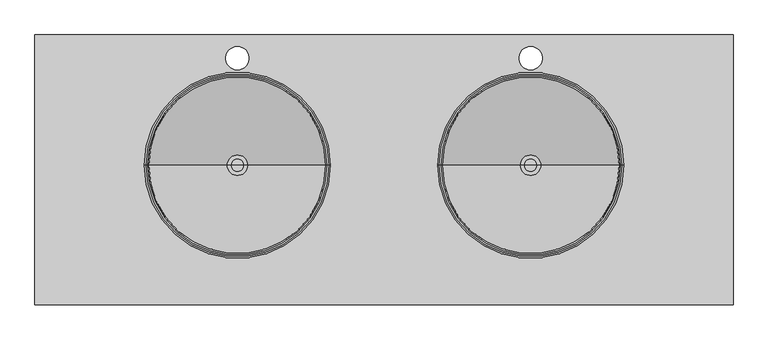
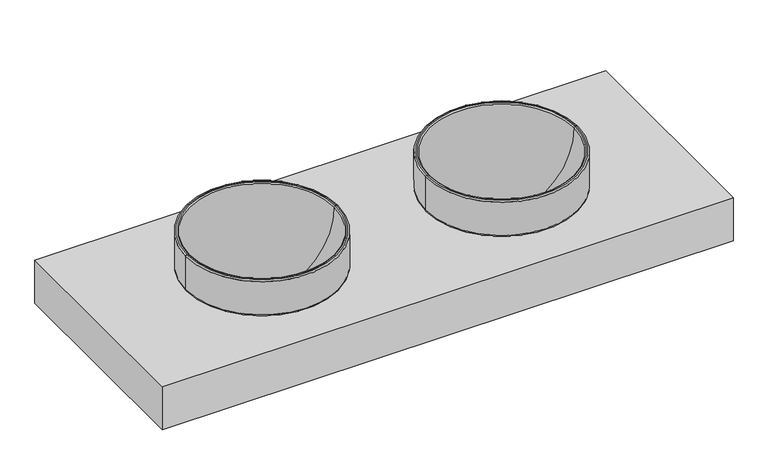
"""IFC4 building model written with IfcOpenShell, lengths in millimetres: flow terminal geometry, CUBIERTA BAÑO : CUBIERTA BAÑO 150CM."""

import ifcopenshell
import ifcopenshell.guid

model = None  # the IFC model being written
_history = None  # IfcOwnerHistory: only IFC2X3 demands one
_inside = {}  # id of a spatial element -> (the spatial element, [elements in it])
_under = {}  # id of a project, library or spatial element -> (it, [spatial elements below it])
_declared = {}  # id of a project -> (the project, [libraries it declares])
_typed = {}  # id of a type object -> (the type object, [elements of that type])
_made_of = {}  # id of a material, layer set ... -> (it, [elements and type objects made of it])


def new_model(schema):
    """Start an empty IFC model of exactly this schema.

    Asked for "IFC4X3", IfcOpenShell would pick the latest addendum, in which some entities
    have other attributes; the version numbers below select the first issue.
    IFC2X3 requires an IfcOwnerHistory on every rooted entity: one is made here for all.
    """
    global model, _history
    if schema == "IFC4X3":
        model = ifcopenshell.file(schema_version=(4, 3, 0, 0))
    else:
        model = ifcopenshell.file(schema=schema)
    _inside.clear()
    _under.clear()
    _declared.clear()
    _typed.clear()
    _made_of.clear()
    _history = None
    if model.schema == "IFC2X3":
        org = make("IfcOrganization", Name="unknown")
        user = make(
            "IfcPersonAndOrganization",
            ThePerson=make("IfcPerson", FamilyName="unknown"),
            TheOrganization=org,
        )
        app = make(
            "IfcApplication",
            ApplicationDeveloper=org,
            Version="unknown",
            ApplicationFullName="unknown",
            ApplicationIdentifier="unknown",
        )
        _history = make(
            "IfcOwnerHistory",
            OwningUser=user,
            OwningApplication=app,
            ChangeAction="ADDED",
            CreationDate=0,
        )
    return model


def make(cls, **values):
    """One entity of the class cls with the attributes given. An attribute that is None is left unset."""
    return model.create_entity(
        cls, **{name: value for name, value in values.items() if value is not None}
    )


def rooted(cls, **values):
    """An entity with a GlobalId (a new one), such as an element, a storey or a relation."""
    return make(cls, GlobalId=ifcopenshell.guid.new(), OwnerHistory=_history, **values)


def si_unit(unit_type, name, prefix=None):
    """IfcSIUnit, for example si_unit("LENGTHUNIT", "METRE", prefix="MILLI")."""
    return make("IfcSIUnit", UnitType=unit_type, Prefix=prefix, Name=name)


def assignment(units):
    """IfcUnitAssignment: the units of a project."""
    return None if units is None else make("IfcUnitAssignment", Units=units)


def point(xyz):
    """IfcCartesianPoint."""
    return None if xyz is None else make("IfcCartesianPoint", Coordinates=xyz)


def direction(xyz):
    """IfcDirection."""
    return None if xyz is None else make("IfcDirection", DirectionRatios=xyz)


def frame(location, z_axis=None, x_axis=None):
    """IfcAxis2Placement3D, a coordinate frame: its origin and axes. An axis left out is left unset."""
    return make(
        "IfcAxis2Placement3D",
        Location=point(location),
        Axis=direction(z_axis),
        RefDirection=direction(x_axis),
    )


def origin():
    """The frame at (0, 0, 0) with its axes left unset."""
    return frame((0.0, 0.0, 0.0))


def place(relative_to, where):
    """IfcLocalPlacement: puts the frame where relative to a parent placement (None: the world)."""
    return make(
        "IfcLocalPlacement", PlacementRelTo=relative_to, RelativePlacement=where
    )


def context(
    kind, dimensions, precision=None, world=None, true_north=None, identifier=None
):
    """IfcGeometricRepresentationContext, for example the 3D "Model" context."""
    return make(
        "IfcGeometricRepresentationContext",
        ContextIdentifier=identifier,
        ContextType=kind,
        CoordinateSpaceDimension=dimensions,
        Precision=precision,
        WorldCoordinateSystem=world,
        TrueNorth=true_north,
    )


def project(units=None, contexts=None):
    """IfcProject with its units and contexts."""
    return rooted(
        "IfcProject",
        Name="project",
        RepresentationContexts=contexts,
        UnitsInContext=assignment(units),
    )


def spatial(cls, under=None, at=None, **own):
    """A site, building, storey or space (cls), placed at a placement, below another one or the project."""
    s = rooted(cls, ObjectPlacement=at, **own)
    if under is not None:
        _under.setdefault(under.id(), (under, []))[1].append(s)
    return s


def polyline(points):
    """IfcPolyline through the points."""
    return make("IfcPolyline", Points=[point(p) for p in points])


def circle_curve(where, radius):
    """IfcCircle in the frame where."""
    return make("IfcCircle", Position=where, Radius=radius)


def ellipse_curve(where, semi_axis1, semi_axis2):
    """IfcEllipse in the frame where."""
    return make(
        "IfcEllipse", Position=where, SemiAxis1=semi_axis1, SemiAxis2=semi_axis2
    )


def trimmed(basis, trim1, trim2, sense, master):
    """IfcTrimmedCurve: the piece of a basis curve between two trims."""
    return make(
        "IfcTrimmedCurve",
        BasisCurve=basis,
        Trim1=trim1,
        Trim2=trim2,
        SenseAgreement=sense,
        MasterRepresentation=master,
    )


def shape(context_of_items, identifier, shape_type, items):
    """IfcShapeRepresentation: the items that make up one representation, for example the "Body"."""
    return make(
        "IfcShapeRepresentation",
        ContextOfItems=context_of_items,
        RepresentationIdentifier=identifier,
        RepresentationType=shape_type,
        Items=items,
    )


def source(mapping_origin, context_of_items, identifier, shape_type, items):
    """IfcRepresentationMap: a shape defined once, which mapped items show again and again."""
    return make(
        "IfcRepresentationMap",
        MappingOrigin=mapping_origin,
        MappedRepresentation=shape(context_of_items, identifier, shape_type, items),
    )


def transform(
    local_origin,
    x_axis=None,
    y_axis=None,
    z_axis=None,
    scale=None,
    scale2=None,
    scale3=None,
    uniform=True,
):
    """IfcCartesianTransformationOperator3D, or its non-uniform kind. x_axis, y_axis, z_axis: its Axis1, 2, 3."""
    if uniform:
        return make(
            "IfcCartesianTransformationOperator3D",
            Axis1=direction(x_axis),
            Axis2=direction(y_axis),
            LocalOrigin=point(local_origin),
            Scale=scale,
            Axis3=direction(z_axis),
        )
    return make(
        "IfcCartesianTransformationOperator3DnonUniform",
        Axis1=direction(x_axis),
        Axis2=direction(y_axis),
        LocalOrigin=point(local_origin),
        Scale=scale,
        Axis3=direction(z_axis),
        Scale2=scale2,
        Scale3=scale3,
    )


def mapped(mapping_source, mapping_target):
    """IfcMappedItem: shows the shape of a source again, moved by a transform."""
    return make(
        "IfcMappedItem", MappingSource=mapping_source, MappingTarget=mapping_target
    )


def made_of(thing, what):
    """Note that an element or type object is made of a material, layer set ...; save() writes the relation."""
    if what is not None:
        _made_of.setdefault(what.id(), (what, []))[1].append(thing)
    return thing


def element(
    cls,
    number,
    at=None,
    inside=None,
    cuts=None,
    type_object=None,
    material=None,
    context=None,
    identifier="Body",
    shape_type=None,
    held_by="IfcProductDefinitionShape",
    body=None,
    shapes=None,
    **own,
):
    """One element of the class cls, such as IfcWall. Its Tag is "e" and its number.

    at: its placement. inside: the storey or other place that contains it. cuts: it is an
    opening in that element (IfcRelVoidsElement). A single representation is given by context,
    identifier, shape_type and body (its items); several are given by shapes. held_by: the class
    of the entity that holds the representations. save() writes the other relations.
    """
    e = rooted(cls, Tag="e%d" % number, ObjectPlacement=at, **own)
    if body is not None:
        shapes = [shape(context, identifier, shape_type, body)]
    if shapes is not None:
        e.Representation = make(held_by, Representations=shapes)
    if inside is not None:
        _inside.setdefault(inside.id(), (inside, []))[1].append(e)
    if cuts is not None:
        rooted(
            "IfcRelVoidsElement", RelatingBuildingElement=cuts, RelatedOpeningElement=e
        )
    if type_object is not None:
        _typed.setdefault(type_object.id(), (type_object, []))[1].append(e)
    return made_of(e, material)


def aggregate(whole, parts):
    """IfcRelAggregates: a whole, such as a stair, and the parts it consists of."""
    return rooted("IfcRelAggregates", RelatingObject=whole, RelatedObjects=parts)


def save(model, path):
    """Write the relations noted so far, then the file.

    IfcRelAggregates (storeys below a building ...), IfcRelContainedInSpatialStructure (elements
    in a storey), IfcRelDefinesByType, IfcRelAssociatesMaterial and IfcRelDeclares: one each for
    every whole, place, type object, material and project.
    """
    for whole, parts in _under.values():
        aggregate(whole, parts)
    for where, things in _inside.values():
        rooted(
            "IfcRelContainedInSpatialStructure",
            RelatedElements=things,
            RelatingStructure=where,
        )
    for kind, things in _typed.values():
        rooted("IfcRelDefinesByType", RelatedObjects=things, RelatingType=kind)
    for what, things in _made_of.values():
        rooted("IfcRelAssociatesMaterial", RelatedObjects=things, RelatingMaterial=what)
    for by, libraries in _declared.values():
        rooted("IfcRelDeclares", RelatingContext=by, RelatedDefinitions=libraries)
    model.write(path)


def plane_surface(at):
    """IfcPlane: the flat surface through the origin of the frame at, square to its z axis."""
    return make("IfcPlane", Position=at)


def cylinder_surface(at, radius):
    """IfcCylindricalSurface: all points at the distance radius from the z axis of the frame at."""
    return make("IfcCylindricalSurface", Position=at, Radius=radius)


def revolved_surface(curve, axis_point, axis_direction):
    """IfcSurfaceOfRevolution: the curve turned about the line through axis_point along axis_direction."""
    return make(
        "IfcSurfaceOfRevolution",
        SweptCurve=make("IfcArbitraryOpenProfileDef", ProfileType="CURVE", Curve=curve),
        AxisPosition=make("IfcAxis1Placement", Location=point(axis_point), Axis=direction(axis_direction)),
    )


def advanced_brep(points, edges, surfaces, faces):
    """IfcAdvancedBrep: a solid bounded by faces that lie on surfaces and meet in shared edges.

    An edge is (start, end): straight between two places in points (the first is 0);
    or (start, end, curve); or (start, end, curve, False) where it runs against its curve.
    A face is (place in surfaces, loops), or (place, loops, False) where it looks against
    its surface's normal. A loop lists edges by number (the first is 1), with a minus sign
    where the edge is run from its end to its start. The first loop is the outer one.
    """
    corners = [point(p) for p in points]
    vertices = [make("IfcVertexPoint", VertexGeometry=c) for c in corners]
    made = []
    for start, end, *more in edges:
        made.append(
            make(
                "IfcEdgeCurve",
                EdgeStart=vertices[start],
                EdgeEnd=vertices[end],
                EdgeGeometry=more[0] if more else make("IfcPolyline", Points=[corners[start], corners[end]]),
                SameSense=more[1] if len(more) > 1 else True,
            )
        )
    hull = []
    for where, loops, *sense in faces:
        bounds = []
        for j, loop in enumerate(loops):
            ring = [make("IfcOrientedEdge", EdgeElement=made[abs(k) - 1], Orientation=k > 0) for k in loop]
            bounds.append(
                make(
                    "IfcFaceOuterBound" if j == 0 else "IfcFaceBound",
                    Bound=make("IfcEdgeLoop", EdgeList=ring),
                    Orientation=True,
                )
            )
        hull.append(make("IfcAdvancedFace", Bounds=bounds, FaceSurface=surfaces[where], SameSense=sense[0] if sense else True))
    return make("IfcAdvancedBrep", Outer=make("IfcClosedShell", CfsFaces=hull))


def flow_terminal_b09b52e7(model_context):
    return source(origin(), model_context, "Body", "AdvancedBrep", [
        advanced_brep(
        [(559.7003264, -280.0, 755.0254698), (159.7003264, -280.0, 755.0254698), (164.7257963, -280.0, 750.0), (554.6748566, -280.0, 750.0), (559.7003264, -280.0, 847.1369003), (159.7003264, -280.0, 847.1369003), (556.5666099, -280.0, 850.2706168), (162.834043, -280.0, 850.2706168), (552.8264261, -280.0, 850.2706168), (166.5742268, -280.0, 850.2706168), (549.9406449, -280.0, 847.3848356), (169.460008, -280.0, 847.3848356), (376.6370457, -280.0, 659.6971154), (342.7636072, -280.0, 659.6971154), (376.6370457, -280.0, 649.6794237), (342.7636072, -280.0, 649.6794237), (549.6748566, -280.0, 781.4886928), (169.7257963, -280.0, 781.4886928), (549.6748566, -280.0, 750.0), (169.7257963, -280.0, 750.0)],
        [
            (0, 1, circle_curve(frame((359.7003264, -280.0, 755.0254698), z_axis=(0.0, 0.0, -1.0), x_axis=(-1.0, 0.0, 0.0)), 200.0)),
            (1, 2, circle_curve(frame((164.7257963, -280.0, 755.0254698), z_axis=(0.0, -1.0, 0.0), x_axis=(-1.0, 0.0, 0.0)), 5.0254698)),
            (2, 3, circle_curve(frame((359.7003264, -280.0, 750.0), z_axis=(0.0, 0.0, 1.0), x_axis=(-1.0, 0.0, 0.0)), 194.9745302)),
            (3, 0, circle_curve(frame((554.6748566, -280.0, 755.0254698), z_axis=(0.0, -1.0, 0.0), x_axis=(1.0, 0.0, 0.0)), 5.0254698)),
            (1, 0, circle_curve(frame((359.7003264, -280.0, 755.0254698), z_axis=(0.0, 0.0, -1.0), x_axis=(-1.0, 0.0, 0.0)), 200.0)),
            (3, 2, circle_curve(frame((359.7003264, -280.0, 750.0), z_axis=(0.0, 0.0, 1.0), x_axis=(-1.0, 0.0, 0.0)), 194.9745302)),
            (4, 5, circle_curve(frame((359.7003264, -280.0, 847.1369003), z_axis=(0.0, 0.0, -1.0), x_axis=(-1.0, 0.0, 0.0)), 200.0)),
            (5, 1),
            (0, 4),
            (5, 4, circle_curve(frame((359.7003264, -280.0, 847.1369003), z_axis=(0.0, 0.0, -1.0), x_axis=(-1.0, 0.0, 0.0)), 200.0)),
            (6, 7, circle_curve(frame((359.7003264, -280.0, 850.2706168), z_axis=(0.0, 0.0, -1.0), x_axis=(-1.0, 0.0, 0.0)), 196.8662835)),
            (7, 5, circle_curve(frame((162.834043, -280.0, 847.1369003), z_axis=(0.0, -1.0, 0.0), x_axis=(-1.0, 0.0, 0.0)), 3.1337165)),
            (4, 6, circle_curve(frame((556.5666099, -280.0, 847.1369003), z_axis=(0.0, -1.0, 0.0), x_axis=(1.0, 0.0, 0.0)), 3.1337165)),
            (7, 6, circle_curve(frame((359.7003264, -280.0, 850.2706168), z_axis=(0.0, 0.0, -1.0), x_axis=(-1.0, 0.0, 0.0)), 196.8662835)),
            (8, 9, circle_curve(frame((359.7003264, -280.0, 850.2706168), z_axis=(0.0, 0.0, -1.0), x_axis=(-1.0, 0.0, 0.0)), 193.1260997)),
            (9, 7),
            (6, 8),
            (9, 8, circle_curve(frame((359.7003264, -280.0, 850.2706168), z_axis=(0.0, 0.0, -1.0), x_axis=(-1.0, 0.0, 0.0)), 193.1260997)),
            (10, 11, circle_curve(frame((359.7003264, -280.0, 847.3848356), z_axis=(0.0, 0.0, -1.0), x_axis=(-1.0, 0.0, 0.0)), 190.2403184)),
            (11, 9, circle_curve(frame((166.5742268, -280.0, 847.3848356), z_axis=(0.0, -1.0, 0.0), x_axis=(-1.0, 0.0, 0.0)), 2.8857812)),
            (8, 10, circle_curve(frame((552.8264261, -280.0, 847.3848356), z_axis=(0.0, -1.0, 0.0), x_axis=(1.0, 0.0, 0.0)), 2.8857812)),
            (11, 10, circle_curve(frame((359.7003264, -280.0, 847.3848356), z_axis=(0.0, 0.0, -1.0), x_axis=(-1.0, 0.0, 0.0)), 190.2403184)),
            (12, 13, circle_curve(frame((359.7003264, -280.0, 659.6971154), z_axis=(0.0, 0.0, -1.0), x_axis=(-1.0, 0.0, 0.0)), 16.9367193)),
            (13, 11, circle_curve(frame((354.0281906, -280.0, 843.9531856), z_axis=(0.0, 1.0, 0.0), x_axis=(-1.0, 0.0, 0.0)), 184.6000819)),
            (10, 12, circle_curve(frame((365.3724623, -280.0, 843.9531856), z_axis=(0.0, 1.0, 0.0), x_axis=(1.0, 0.0, 0.0)), 184.6000819)),
            (13, 12, circle_curve(frame((359.7003264, -280.0, 659.6971154), z_axis=(0.0, 0.0, -1.0), x_axis=(-1.0, 0.0, 0.0)), 16.9367193)),
            (14, 15, circle_curve(frame((359.7003264, -280.0, 649.6794237), z_axis=(0.0, 0.0, -1.0), x_axis=(-1.0, 0.0, 0.0)), 16.9367193)),
            (15, 13),
            (12, 14),
            (15, 14, circle_curve(frame((359.7003264, -280.0, 649.6794237), z_axis=(0.0, 0.0, -1.0), x_axis=(-1.0, 0.0, 0.0)), 16.9367193)),
            (16, 17, circle_curve(frame((359.7003264, -280.0, 781.4886928), z_axis=(0.0, 0.0, -1.0), x_axis=(-1.0, 0.0, 0.0)), 189.9745302)),
            (17, 15, circle_curve(frame((354.0281906, -280.0, 843.9531856), z_axis=(0.0, -1.0, 0.0), x_axis=(-1.0, 0.0, 0.0)), 194.6000653)),
            (14, 16, circle_curve(frame((365.3724623, -280.0, 843.9531856), z_axis=(0.0, -1.0, 0.0), x_axis=(1.0, 0.0, 0.0)), 194.6000653)),
            (17, 16, circle_curve(frame((359.7003264, -280.0, 781.4886928), z_axis=(0.0, 0.0, -1.0), x_axis=(-1.0, 0.0, 0.0)), 189.9745302)),
            (18, 19, circle_curve(frame((359.7003264, -280.0, 750.0), z_axis=(0.0, 0.0, -1.0), x_axis=(-1.0, 0.0, 0.0)), 189.9745302)),
            (19, 17),
            (16, 18),
            (19, 18, circle_curve(frame((359.7003264, -280.0, 750.0), z_axis=(0.0, 0.0, -1.0), x_axis=(-1.0, 0.0, 0.0)), 189.9745302)),
            (2, 19),
            (18, 3),
        ],
        [
            revolved_surface(trimmed(ellipse_curve(frame((164.7257963, -280.0, 755.0254698), z_axis=(0.0, 1.0, 0.0), x_axis=(-1.0, 0.0, 0.0)), 5.0254698, 5.0254698), [point((164.7257963, -280.0, 750.0))], [point((159.7003264, -280.0, 755.0254698))], True, "CARTESIAN"), (359.7003264, -280.0, 700.0), (0.0, 0.0, 1.0)),
            cylinder_surface(frame((359.7003264, -280.0, 700.0), z_axis=(0.0, 0.0, 1.0), x_axis=(-1.0, 0.0, 0.0)), 200.0),
            revolved_surface(trimmed(ellipse_curve(frame((162.834043, -280.0, 847.1369003), z_axis=(0.0, 1.0, 0.0), x_axis=(-1.0, 0.0, 0.0)), 3.1337165, 3.1337165), [point((159.7003264, -280.0, 847.1369003))], [point((162.834043, -280.0, 850.2706168))], True, "CARTESIAN"), (359.7003264, -280.0, 700.0), (0.0, 0.0, 1.0)),
            plane_surface(frame((359.7003264, -280.0, 850.2706168), z_axis=(0.0, 0.0, 1.0), x_axis=(-1.0, 0.0, 0.0))),
            revolved_surface(trimmed(ellipse_curve(frame((166.5742268, -280.0, 847.3848356), z_axis=(0.0, 1.0, 0.0), x_axis=(-1.0, 0.0, 0.0)), 2.8857812, 2.8857812), [point((166.5742268, -280.0, 850.2706168))], [point((169.460008, -280.0, 847.3848356))], True, "CARTESIAN"), (359.7003264, -280.0, 700.0), (0.0, 0.0, 1.0)),
            revolved_surface(trimmed(ellipse_curve(frame((354.0281906, -280.0, 843.9531856), z_axis=(0.0, -1.0, 0.0), x_axis=(-1.0, 0.0, 0.0)), 184.6000819, 184.6000819), [point((169.460008, -280.0, 847.3848356))], [point((342.7636072, -280.0, 659.6971154))], True, "CARTESIAN"), (359.7003264, -280.0, 700.0), (0.0, 0.0, 1.0)),
            revolved_surface(polyline([(342.7636071, -280.0, 659.6971154), (342.7636071, -280.0, 649.6794237)]), (359.7003264, -280.0, 700.0), (0.0, 0.0, 1.0)),
            revolved_surface(trimmed(ellipse_curve(frame((354.0281906, -280.0, 843.9531856), z_axis=(0.0, 1.0, 0.0), x_axis=(-1.0, 0.0, 0.0)), 194.6000653, 194.6000653), [point((342.7636072, -280.0, 649.6794237))], [point((169.7257963, -280.0, 781.4886928))], True, "CARTESIAN"), (359.7003264, -280.0, 700.0), (0.0, 0.0, 1.0)),
            revolved_surface(polyline([(169.7257962, -280.0, 781.4886928), (169.7257962, -280.0, 750.0)]), (359.7003264, -280.0, 700.0), (0.0, 0.0, 1.0)),
            plane_surface(frame((359.7003264, -280.0, 750.0), z_axis=(0.0, 0.0, -1.0), x_axis=(-1.0, 0.0, 0.0))),
        ],
        [
            (0, [[1, 2, 3, 4]]),
            (0, [[5, -4, 6, -2]]),
            (1, [[7, 8, -1, 9]]),
            (1, [[10, -9, -5, -8]]),
            (2, [[11, 12, -7, 13]]),
            (2, [[14, -13, -10, -12]]),
            (3, [[15, 16, -11, 17]]),
            (3, [[18, -17, -14, -16]]),
            (4, [[19, 20, -15, 21]]),
            (4, [[22, -21, -18, -20]]),
            (5, [[23, 24, -19, 25]]),
            (5, [[26, -25, -22, -24]]),
            (6, [[27, 28, -23, 29]]),
            (6, [[30, -29, -26, -28]]),
            (7, [[31, 32, -27, 33]]),
            (7, [[34, -33, -30, -32]]),
            (8, [[35, 36, -31, 37]]),
            (8, [[38, -37, -34, -36]]),
            (9, [[-3, 39, -35, 40]]),
            (9, [[-6, -40, -38, -39]]),
        ],
    ),
        advanced_brep(
        [(373.4382327, -280.0, 661.875), (345.9624201, -280.0, 661.875), (337.7003264, -280.0, 661.875), (381.7003264, -280.0, 661.875), (373.4382327, -280.0, 643.7247134), (345.9624201, -280.0, 643.7247134), (359.7003264, -280.0, 643.7247134), (376.7003264, -280.0, 640.0), (342.7003264, -280.0, 640.0), (359.7003264, -280.0, 640.0), (376.7003264, -280.0, 660.339751), (342.7003264, -280.0, 660.339751), (381.7003264, -280.0, 660.339751), (337.7003264, -280.0, 660.339751)],
        [
            (0, 1, circle_curve(frame((359.7003264, -280.0, 661.875), z_axis=(0.0, 0.0, -1.0), x_axis=(-1.0, 0.0, 0.0)), 13.7379063)),
            (1, 2),
            (2, 3, circle_curve(frame((359.7003264, -280.0, 661.875), z_axis=(0.0, 0.0, 1.0), x_axis=(-1.0, 0.0, 0.0)), 22.0)),
            (3, 0),
            (1, 0, circle_curve(frame((359.7003264, -280.0, 661.875), z_axis=(0.0, 0.0, -1.0), x_axis=(-1.0, 0.0, 0.0)), 13.7379063)),
            (3, 2, circle_curve(frame((359.7003264, -280.0, 661.875), z_axis=(0.0, 0.0, 1.0), x_axis=(-1.0, 0.0, 0.0)), 22.0)),
            (4, 5, circle_curve(frame((359.7003264, -280.0, 643.7247134), z_axis=(0.0, 0.0, -1.0), x_axis=(-1.0, 0.0, 0.0)), 13.7379063)),
            (5, 1),
            (0, 4),
            (5, 4, circle_curve(frame((359.7003264, -280.0, 643.7247134), z_axis=(0.0, 0.0, -1.0), x_axis=(-1.0, 0.0, 0.0)), 13.7379063)),
            (6, 5),
            (4, 6),
            (7, 8, circle_curve(frame((359.7003264, -280.0, 640.0), z_axis=(0.0, 0.0, -1.0), x_axis=(-1.0, 0.0, 0.0)), 17.0)),
            (8, 9),
            (9, 7),
            (8, 7, circle_curve(frame((359.7003264, -280.0, 640.0), z_axis=(0.0, 0.0, -1.0), x_axis=(-1.0, 0.0, 0.0)), 17.0)),
            (10, 11, circle_curve(frame((359.7003264, -280.0, 660.339751), z_axis=(0.0, 0.0, -1.0), x_axis=(-1.0, 0.0, 0.0)), 17.0)),
            (11, 8),
            (7, 10),
            (11, 10, circle_curve(frame((359.7003264, -280.0, 660.339751), z_axis=(0.0, 0.0, -1.0), x_axis=(-1.0, 0.0, 0.0)), 17.0)),
            (12, 13, circle_curve(frame((359.7003264, -280.0, 660.339751), z_axis=(0.0, 0.0, -1.0), x_axis=(-1.0, 0.0, 0.0)), 22.0)),
            (13, 11),
            (10, 12),
            (13, 12, circle_curve(frame((359.7003264, -280.0, 660.339751), z_axis=(0.0, 0.0, -1.0), x_axis=(-1.0, 0.0, 0.0)), 22.0)),
            (2, 13),
            (12, 3),
        ],
        [
            plane_surface(frame((359.7003264, -280.0, 661.875), z_axis=(0.0, 0.0, 1.0), x_axis=(-1.0, 0.0, 0.0))),
            revolved_surface(polyline([(345.9624201, -280.0, 661.875), (345.9624201, -280.0, 643.7247134)]), (359.7003264, -280.0, 639.8833255), (0.0, 0.0, 1.0)),
            plane_surface(frame((359.7003264, -280.0, 643.7247134), z_axis=(0.0, 0.0, 1.0), x_axis=(-1.0, 0.0, 0.0))),
            plane_surface(frame((359.7003264, -280.0, 640.0), z_axis=(0.0, 0.0, -1.0), x_axis=(-1.0, 0.0, 0.0))),
            cylinder_surface(frame((359.7003264, -280.0, 639.8833255), z_axis=(0.0, 0.0, 1.0), x_axis=(-1.0, 0.0, 0.0)), 17.0),
            plane_surface(frame((359.7003264, -280.0, 660.339751), z_axis=(0.0, 0.0, -1.0), x_axis=(-1.0, 0.0, 0.0))),
            cylinder_surface(frame((359.7003264, -280.0, 639.8833255), z_axis=(0.0, 0.0, 1.0), x_axis=(-1.0, 0.0, 0.0)), 22.0),
        ],
        [
            (0, [[1, 2, 3, 4]]),
            (0, [[5, -4, 6, -2]]),
            (1, [[7, 8, -1, 9]]),
            (1, [[10, -9, -5, -8]]),
            (2, [[11, -7, 12]]),
            (2, [[-12, -10, -11]]),
            (3, [[13, 14, 15]]),
            (3, [[16, -15, -14]]),
            (4, [[17, 18, -13, 19]]),
            (4, [[20, -19, -16, -18]]),
            (5, [[21, 22, -17, 23]]),
            (5, [[24, -23, -20, -22]]),
            (6, [[-3, 25, -21, 26]]),
            (6, [[-6, -26, -24, -25]]),
        ],
    ),
        advanced_brep(
        [(-70.2996736, -280.0, 755.0254698), (-470.2996736, -280.0, 755.0254698), (-465.2742037, -280.0, 750.0), (-75.3251434, -280.0, 750.0), (-70.2996736, -280.0, 847.1369003), (-470.2996736, -280.0, 847.1369003), (-73.4333901, -280.0, 850.2706168), (-467.165957, -280.0, 850.2706168), (-77.1735739, -280.0, 850.2706168), (-463.4257732, -280.0, 850.2706168), (-80.0593551, -280.0, 847.3848356), (-460.539992, -280.0, 847.3848356), (-253.3629543, -280.0, 659.6971154), (-287.2363928, -280.0, 659.6971154), (-253.3629543, -280.0, 649.6794237), (-287.2363928, -280.0, 649.6794237), (-80.3251434, -280.0, 781.4886928), (-460.2742037, -280.0, 781.4886928), (-80.3251434, -280.0, 750.0), (-460.2742037, -280.0, 750.0)],
        [
            (0, 1, circle_curve(frame((-270.2996736, -280.0, 755.0254698), z_axis=(0.0, 0.0, -1.0), x_axis=(-1.0, 0.0, 0.0)), 200.0)),
            (1, 2, circle_curve(frame((-465.2742037, -280.0, 755.0254698), z_axis=(0.0, -1.0, 0.0), x_axis=(-1.0, 0.0, 0.0)), 5.0254698)),
            (2, 3, circle_curve(frame((-270.2996736, -280.0, 750.0), z_axis=(0.0, 0.0, 1.0), x_axis=(-1.0, 0.0, 0.0)), 194.9745302)),
            (3, 0, circle_curve(frame((-75.3251434, -280.0, 755.0254698), z_axis=(0.0, -1.0, 0.0), x_axis=(1.0, 0.0, 0.0)), 5.0254698)),
            (1, 0, circle_curve(frame((-270.2996736, -280.0, 755.0254698), z_axis=(0.0, 0.0, -1.0), x_axis=(-1.0, 0.0, 0.0)), 200.0)),
            (3, 2, circle_curve(frame((-270.2996736, -280.0, 750.0), z_axis=(0.0, 0.0, 1.0), x_axis=(-1.0, 0.0, 0.0)), 194.9745302)),
            (4, 5, circle_curve(frame((-270.2996736, -280.0, 847.1369003), z_axis=(0.0, 0.0, -1.0), x_axis=(-1.0, 0.0, 0.0)), 200.0)),
            (5, 1),
            (0, 4),
            (5, 4, circle_curve(frame((-270.2996736, -280.0, 847.1369003), z_axis=(0.0, 0.0, -1.0), x_axis=(-1.0, 0.0, 0.0)), 200.0)),
            (6, 7, circle_curve(frame((-270.2996736, -280.0, 850.2706168), z_axis=(0.0, 0.0, -1.0), x_axis=(-1.0, 0.0, 0.0)), 196.8662835)),
            (7, 5, circle_curve(frame((-467.165957, -280.0, 847.1369003), z_axis=(0.0, -1.0, 0.0), x_axis=(-1.0, 0.0, 0.0)), 3.1337165)),
            (4, 6, circle_curve(frame((-73.4333901, -280.0, 847.1369003), z_axis=(0.0, -1.0, 0.0), x_axis=(1.0, 0.0, 0.0)), 3.1337165)),
            (7, 6, circle_curve(frame((-270.2996736, -280.0, 850.2706168), z_axis=(0.0, 0.0, -1.0), x_axis=(-1.0, 0.0, 0.0)), 196.8662835)),
            (8, 9, circle_curve(frame((-270.2996736, -280.0, 850.2706168), z_axis=(0.0, 0.0, -1.0), x_axis=(-1.0, 0.0, 0.0)), 193.1260997)),
            (9, 7),
            (6, 8),
            (9, 8, circle_curve(frame((-270.2996736, -280.0, 850.2706168), z_axis=(0.0, 0.0, -1.0), x_axis=(-1.0, 0.0, 0.0)), 193.1260997)),
            (10, 11, circle_curve(frame((-270.2996736, -280.0, 847.3848356), z_axis=(0.0, 0.0, -1.0), x_axis=(-1.0, 0.0, 0.0)), 190.2403184)),
            (11, 9, circle_curve(frame((-463.4257732, -280.0, 847.3848356), z_axis=(0.0, -1.0, 0.0), x_axis=(-1.0, 0.0, 0.0)), 2.8857812)),
            (8, 10, circle_curve(frame((-77.1735739, -280.0, 847.3848356), z_axis=(0.0, -1.0, 0.0), x_axis=(1.0, 0.0, 0.0)), 2.8857812)),
            (11, 10, circle_curve(frame((-270.2996736, -280.0, 847.3848356), z_axis=(0.0, 0.0, -1.0), x_axis=(-1.0, 0.0, 0.0)), 190.2403184)),
            (12, 13, circle_curve(frame((-270.2996736, -280.0, 659.6971154), z_axis=(0.0, 0.0, -1.0), x_axis=(-1.0, 0.0, 0.0)), 16.9367193)),
            (13, 11, circle_curve(frame((-275.9718094, -280.0, 843.9531856), z_axis=(0.0, 1.0, 0.0), x_axis=(-1.0, 0.0, 0.0)), 184.6000819)),
            (10, 12, circle_curve(frame((-264.6275377, -280.0, 843.9531856), z_axis=(0.0, 1.0, 0.0), x_axis=(1.0, 0.0, 0.0)), 184.6000819)),
            (13, 12, circle_curve(frame((-270.2996736, -280.0, 659.6971154), z_axis=(0.0, 0.0, -1.0), x_axis=(-1.0, 0.0, 0.0)), 16.9367193)),
            (14, 15, circle_curve(frame((-270.2996736, -280.0, 649.6794237), z_axis=(0.0, 0.0, -1.0), x_axis=(-1.0, 0.0, 0.0)), 16.9367193)),
            (15, 13),
            (12, 14),
            (15, 14, circle_curve(frame((-270.2996736, -280.0, 649.6794237), z_axis=(0.0, 0.0, -1.0), x_axis=(-1.0, 0.0, 0.0)), 16.9367193)),
            (16, 17, circle_curve(frame((-270.2996736, -280.0, 781.4886928), z_axis=(0.0, 0.0, -1.0), x_axis=(-1.0, 0.0, 0.0)), 189.9745302)),
            (17, 15, circle_curve(frame((-275.9718094, -280.0, 843.9531856), z_axis=(0.0, -1.0, 0.0), x_axis=(-1.0, 0.0, 0.0)), 194.6000653)),
            (14, 16, circle_curve(frame((-264.6275377, -280.0, 843.9531856), z_axis=(0.0, -1.0, 0.0), x_axis=(1.0, 0.0, 0.0)), 194.6000653)),
            (17, 16, circle_curve(frame((-270.2996736, -280.0, 781.4886928), z_axis=(0.0, 0.0, -1.0), x_axis=(-1.0, 0.0, 0.0)), 189.9745302)),
            (18, 19, circle_curve(frame((-270.2996736, -280.0, 750.0), z_axis=(0.0, 0.0, -1.0), x_axis=(-1.0, 0.0, 0.0)), 189.9745302)),
            (19, 17),
            (16, 18),
            (19, 18, circle_curve(frame((-270.2996736, -280.0, 750.0), z_axis=(0.0, 0.0, -1.0), x_axis=(-1.0, 0.0, 0.0)), 189.9745302)),
            (2, 19),
            (18, 3),
        ],
        [
            revolved_surface(trimmed(ellipse_curve(frame((-465.2742037, -280.0, 755.0254698), z_axis=(0.0, 1.0, 0.0), x_axis=(-1.0, 0.0, 0.0)), 5.0254698, 5.0254698), [point((-465.2742037, -280.0, 750.0))], [point((-470.2996736, -280.0, 755.0254698))], True, "CARTESIAN"), (-270.2996736, -280.0, 700.0), (0.0, 0.0, 1.0)),
            cylinder_surface(frame((-270.2996736, -280.0, 700.0), z_axis=(0.0, 0.0, 1.0), x_axis=(-1.0, 0.0, 0.0)), 200.0),
            revolved_surface(trimmed(ellipse_curve(frame((-467.165957, -280.0, 847.1369003), z_axis=(0.0, 1.0, 0.0), x_axis=(-1.0, 0.0, 0.0)), 3.1337165, 3.1337165), [point((-470.2996736, -280.0, 847.1369003))], [point((-467.165957, -280.0, 850.2706168))], True, "CARTESIAN"), (-270.2996736, -280.0, 700.0), (0.0, 0.0, 1.0)),
            plane_surface(frame((-270.2996736, -280.0, 850.2706168), z_axis=(0.0, 0.0, 1.0), x_axis=(-1.0, 0.0, 0.0))),
            revolved_surface(trimmed(ellipse_curve(frame((-463.4257732, -280.0, 847.3848356), z_axis=(0.0, 1.0, 0.0), x_axis=(-1.0, 0.0, 0.0)), 2.8857812, 2.8857812), [point((-463.4257732, -280.0, 850.2706168))], [point((-460.539992, -280.0, 847.3848356))], True, "CARTESIAN"), (-270.2996736, -280.0, 700.0), (0.0, 0.0, 1.0)),
            revolved_surface(trimmed(ellipse_curve(frame((-275.9718094, -280.0, 843.9531856), z_axis=(0.0, -1.0, 0.0), x_axis=(-1.0, 0.0, 0.0)), 184.6000819, 184.6000819), [point((-460.539992, -280.0, 847.3848356))], [point((-287.2363928, -280.0, 659.6971154))], True, "CARTESIAN"), (-270.2996736, -280.0, 700.0), (0.0, 0.0, 1.0)),
            revolved_surface(polyline([(-287.2363929, -280.0, 659.6971154), (-287.2363929, -280.0, 649.6794237)]), (-270.2996736, -280.0, 700.0), (0.0, 0.0, 1.0)),
            revolved_surface(trimmed(ellipse_curve(frame((-275.9718094, -280.0, 843.9531856), z_axis=(0.0, 1.0, 0.0), x_axis=(-1.0, 0.0, 0.0)), 194.6000653, 194.6000653), [point((-287.2363928, -280.0, 649.6794237))], [point((-460.2742037, -280.0, 781.4886928))], True, "CARTESIAN"), (-270.2996736, -280.0, 700.0), (0.0, 0.0, 1.0)),
            revolved_surface(polyline([(-460.2742038, -280.0, 781.4886928), (-460.2742038, -280.0, 750.0)]), (-270.2996736, -280.0, 700.0), (0.0, 0.0, 1.0)),
            plane_surface(frame((-270.2996736, -280.0, 750.0), z_axis=(0.0, 0.0, -1.0), x_axis=(-1.0, 0.0, 0.0))),
        ],
        [
            (0, [[1, 2, 3, 4]]),
            (0, [[5, -4, 6, -2]]),
            (1, [[7, 8, -1, 9]]),
            (1, [[10, -9, -5, -8]]),
            (2, [[11, 12, -7, 13]]),
            (2, [[14, -13, -10, -12]]),
            (3, [[15, 16, -11, 17]]),
            (3, [[18, -17, -14, -16]]),
            (4, [[19, 20, -15, 21]]),
            (4, [[22, -21, -18, -20]]),
            (5, [[23, 24, -19, 25]]),
            (5, [[26, -25, -22, -24]]),
            (6, [[27, 28, -23, 29]]),
            (6, [[30, -29, -26, -28]]),
            (7, [[31, 32, -27, 33]]),
            (7, [[34, -33, -30, -32]]),
            (8, [[35, 36, -31, 37]]),
            (8, [[38, -37, -34, -36]]),
            (9, [[-3, 39, -35, 40]]),
            (9, [[-6, -40, -38, -39]]),
        ],
    ),
        advanced_brep(
        [(-256.5617673, -280.0, 661.875), (-284.0375799, -280.0, 661.875), (-292.2996736, -280.0, 661.875), (-248.2996736, -280.0, 661.875), (-256.5617673, -280.0, 643.7247134), (-284.0375799, -280.0, 643.7247134), (-270.2996736, -280.0, 643.7247134), (-253.2996736, -280.0, 640.0), (-287.2996736, -280.0, 640.0), (-270.2996736, -280.0, 640.0), (-253.2996736, -280.0, 660.339751), (-287.2996736, -280.0, 660.339751), (-248.2996736, -280.0, 660.339751), (-292.2996736, -280.0, 660.339751)],
        [
            (0, 1, circle_curve(frame((-270.2996736, -280.0, 661.875), z_axis=(0.0, 0.0, -1.0), x_axis=(-1.0, 0.0, 0.0)), 13.7379063)),
            (1, 2),
            (2, 3, circle_curve(frame((-270.2996736, -280.0, 661.875), z_axis=(0.0, 0.0, 1.0), x_axis=(-1.0, 0.0, 0.0)), 22.0)),
            (3, 0),
            (1, 0, circle_curve(frame((-270.2996736, -280.0, 661.875), z_axis=(0.0, 0.0, -1.0), x_axis=(-1.0, 0.0, 0.0)), 13.7379063)),
            (3, 2, circle_curve(frame((-270.2996736, -280.0, 661.875), z_axis=(0.0, 0.0, 1.0), x_axis=(-1.0, 0.0, 0.0)), 22.0)),
            (4, 5, circle_curve(frame((-270.2996736, -280.0, 643.7247134), z_axis=(0.0, 0.0, -1.0), x_axis=(-1.0, 0.0, 0.0)), 13.7379063)),
            (5, 1),
            (0, 4),
            (5, 4, circle_curve(frame((-270.2996736, -280.0, 643.7247134), z_axis=(0.0, 0.0, -1.0), x_axis=(-1.0, 0.0, 0.0)), 13.7379063)),
            (6, 5),
            (4, 6),
            (7, 8, circle_curve(frame((-270.2996736, -280.0, 640.0), z_axis=(0.0, 0.0, -1.0), x_axis=(-1.0, 0.0, 0.0)), 17.0)),
            (8, 9),
            (9, 7),
            (8, 7, circle_curve(frame((-270.2996736, -280.0, 640.0), z_axis=(0.0, 0.0, -1.0), x_axis=(-1.0, 0.0, 0.0)), 17.0)),
            (10, 11, circle_curve(frame((-270.2996736, -280.0, 660.339751), z_axis=(0.0, 0.0, -1.0), x_axis=(-1.0, 0.0, 0.0)), 17.0)),
            (11, 8),
            (7, 10),
            (11, 10, circle_curve(frame((-270.2996736, -280.0, 660.339751), z_axis=(0.0, 0.0, -1.0), x_axis=(-1.0, 0.0, 0.0)), 17.0)),
            (12, 13, circle_curve(frame((-270.2996736, -280.0, 660.339751), z_axis=(0.0, 0.0, -1.0), x_axis=(-1.0, 0.0, 0.0)), 22.0)),
            (13, 11),
            (10, 12),
            (13, 12, circle_curve(frame((-270.2996736, -280.0, 660.339751), z_axis=(0.0, 0.0, -1.0), x_axis=(-1.0, 0.0, 0.0)), 22.0)),
            (2, 13),
            (12, 3),
        ],
        [
            plane_surface(frame((-270.2996736, -280.0, 661.875), z_axis=(0.0, 0.0, 1.0), x_axis=(-1.0, 0.0, 0.0))),
            revolved_surface(polyline([(-284.0375799, -280.0, 661.875), (-284.0375799, -280.0, 643.7247134)]), (-270.2996736, -280.0, 639.8833255), (0.0, 0.0, 1.0)),
            plane_surface(frame((-270.2996736, -280.0, 643.7247134), z_axis=(0.0, 0.0, 1.0), x_axis=(-1.0, 0.0, 0.0))),
            plane_surface(frame((-270.2996736, -280.0, 640.0), z_axis=(0.0, 0.0, -1.0), x_axis=(-1.0, 0.0, 0.0))),
            cylinder_surface(frame((-270.2996736, -280.0, 639.8833255), z_axis=(0.0, 0.0, 1.0), x_axis=(-1.0, 0.0, 0.0)), 17.0),
            plane_surface(frame((-270.2996736, -280.0, 660.339751), z_axis=(0.0, 0.0, -1.0), x_axis=(-1.0, 0.0, 0.0))),
            cylinder_surface(frame((-270.2996736, -280.0, 639.8833255), z_axis=(0.0, 0.0, 1.0), x_axis=(-1.0, 0.0, 0.0)), 22.0),
        ],
        [
            (0, [[1, 2, 3, 4]]),
            (0, [[5, -4, 6, -2]]),
            (1, [[7, 8, -1, 9]]),
            (1, [[10, -9, -5, -8]]),
            (2, [[11, -7, 12]]),
            (2, [[-12, -10, -11]]),
            (3, [[13, 14, 15]]),
            (3, [[16, -15, -14]]),
            (4, [[17, 18, -13, 19]]),
            (4, [[20, -19, -16, -18]]),
            (5, [[21, 22, -17, 23]]),
            (5, [[24, -23, -20, -22]]),
            (6, [[-3, 25, -21, 26]]),
            (6, [[-6, -26, -24, -25]]),
        ],
    ),
        advanced_brep(
        [(-685.2996736, 0.0, 730.2844037), (774.7003264, 0.0, 730.2844037), (774.7003264, -560.0, 730.2844037), (-685.2996736, -560.0, 730.2844037), (-270.2996736, -25.0, 730.2844037), (-270.2996736, -75.0, 730.2844037), (-270.2996736, -100.0, 730.2844037), (-270.2996736, -460.0, 730.2844037), (359.7003264, -25.0, 730.2844037), (359.7003264, -75.0, 730.2844037), (359.7003264, -100.0, 730.2844037), (359.7003264, -460.0, 730.2844037), (794.7003264, 0.0, 750.0), (-705.2996736, 0.0, 750.0), (-705.2996736, -580.0, 750.0), (794.7003264, -580.0, 750.0), (-270.2996736, -25.0, 750.0), (-270.2996736, -75.0, 750.0), (-270.2996736, -100.0, 750.0), (-270.2996736, -460.0, 750.0), (359.7003264, -25.0, 750.0), (359.7003264, -75.0, 750.0), (359.7003264, -100.0, 750.0), (359.7003264, -460.0, 750.0), (794.7003264, 0.0, 630.0), (774.7003264, 0.0, 630.0), (-685.2996736, 0.0, 630.0), (-705.2996736, 0.0, 630.0), (-705.2996736, -580.0, 630.0), (794.7003264, -580.0, 630.0), (-685.2996736, -560.0, 630.0), (774.7003264, -560.0, 630.0)],
        [
            (0, 1),
            (1, 2),
            (2, 3),
            (3, 0),
            (4, 5, circle_curve(frame((-270.2996736, -50.0, 730.2844037), z_axis=(0.0, 0.0, 1.0), x_axis=(0.0, -1.0, 0.0)), 25.0)),
            (5, 4, circle_curve(frame((-270.2996736, -50.0, 730.2844037), z_axis=(0.0, 0.0, 1.0), x_axis=(0.0, -1.0, 0.0)), 25.0)),
            (6, 7, circle_curve(frame((-270.2996736, -280.0, 730.2844037), z_axis=(0.0, 0.0, 1.0), x_axis=(0.0, -1.0, 0.0)), 180.0)),
            (7, 6, circle_curve(frame((-270.2996736, -280.0, 730.2844037), z_axis=(0.0, 0.0, 1.0), x_axis=(0.0, -1.0, 0.0)), 180.0)),
            (8, 9, circle_curve(frame((359.7003264, -50.0, 730.2844037), z_axis=(0.0, 0.0, 1.0), x_axis=(0.0, -1.0, 0.0)), 25.0)),
            (9, 8, circle_curve(frame((359.7003264, -50.0, 730.2844037), z_axis=(0.0, 0.0, 1.0), x_axis=(0.0, -1.0, 0.0)), 25.0)),
            (10, 11, circle_curve(frame((359.7003264, -280.0, 730.2844037), z_axis=(0.0, 0.0, 1.0), x_axis=(0.0, -1.0, 0.0)), 180.0)),
            (11, 10, circle_curve(frame((359.7003264, -280.0, 730.2844037), z_axis=(0.0, 0.0, 1.0), x_axis=(0.0, -1.0, 0.0)), 180.0)),
            (12, 13),
            (13, 14),
            (14, 15),
            (15, 12),
            (16, 17, circle_curve(frame((-270.2996736, -50.0, 750.0), z_axis=(0.0, 0.0, -1.0), x_axis=(0.0, -1.0, 0.0)), 25.0)),
            (17, 16, circle_curve(frame((-270.2996736, -50.0, 750.0), z_axis=(0.0, 0.0, -1.0), x_axis=(0.0, -1.0, 0.0)), 25.0)),
            (18, 19, circle_curve(frame((-270.2996736, -280.0, 750.0), z_axis=(0.0, 0.0, -1.0), x_axis=(0.0, -1.0, 0.0)), 180.0)),
            (19, 18, circle_curve(frame((-270.2996736, -280.0, 750.0), z_axis=(0.0, 0.0, -1.0), x_axis=(0.0, -1.0, 0.0)), 180.0)),
            (20, 21, circle_curve(frame((359.7003264, -50.0, 750.0), z_axis=(0.0, 0.0, -1.0), x_axis=(0.0, -1.0, 0.0)), 25.0)),
            (21, 20, circle_curve(frame((359.7003264, -50.0, 750.0), z_axis=(0.0, 0.0, -1.0), x_axis=(0.0, -1.0, 0.0)), 25.0)),
            (22, 23, circle_curve(frame((359.7003264, -280.0, 750.0), z_axis=(0.0, 0.0, -1.0), x_axis=(0.0, -1.0, 0.0)), 180.0)),
            (23, 22, circle_curve(frame((359.7003264, -280.0, 750.0), z_axis=(0.0, 0.0, -1.0), x_axis=(0.0, -1.0, 0.0)), 180.0)),
            (12, 24),
            (24, 25),
            (25, 1),
            (0, 26),
            (26, 27),
            (27, 13),
            (27, 28),
            (28, 14),
            (28, 29),
            (29, 15),
            (29, 24),
            (5, 17),
            (16, 4),
            (7, 19),
            (18, 6),
            (9, 21),
            (20, 8),
            (11, 23),
            (22, 10),
            (26, 30),
            (30, 31),
            (31, 25),
            (31, 2),
            (30, 3),
        ],
        [
            plane_surface(frame((-705.2996736, 0.0, 730.2844037), z_axis=(0.0, 0.0, -1.0), x_axis=(1.0, 0.0, 0.0))),
            plane_surface(frame((-705.2996736, 0.0, 750.0), z_axis=(0.0, 0.0, 1.0), x_axis=(-1.0, 0.0, 0.0))),
            plane_surface(frame((794.7003264, 0.0, 750.0), z_axis=(0.0, 1.0, 0.0), x_axis=(0.0, 0.0, -1.0))),
            plane_surface(frame((-705.2996736, 0.0, 750.0), z_axis=(-1.0, 0.0, 0.0), x_axis=(0.0, 0.0, -1.0))),
            plane_surface(frame((-705.2996736, -580.0, 750.0), z_axis=(0.0, -1.0, 0.0), x_axis=(0.0, 0.0, -1.0))),
            plane_surface(frame((794.7003264, -580.0, 750.0), z_axis=(1.0, 0.0, 0.0), x_axis=(0.0, 0.0, -1.0))),
            revolved_surface(polyline([(-270.2996736, -75.0, 730.2844037), (-270.2996736, -75.0, 750.0)]), (-270.2996736, -50.0, 750.0), (0.0, 0.0, -1.0)),
            revolved_surface(polyline([(-270.2996736, -460.0, 730.2844037), (-270.2996736, -460.0, 750.0)]), (-270.2996736, -280.0, 750.0), (0.0, 0.0, -1.0)),
            revolved_surface(polyline([(359.7003264, -75.0, 730.2844037), (359.7003264, -75.0, 750.0)]), (359.7003264, -50.0, 750.0), (0.0, 0.0, -1.0)),
            revolved_surface(polyline([(359.7003264, -460.0, 730.2844037), (359.7003264, -460.0, 750.0)]), (359.7003264, -280.0, 750.0), (0.0, 0.0, -1.0)),
            plane_surface(frame((-705.2996736, -580.0, 630.0), z_axis=(0.0, 0.0, -1.0), x_axis=(-1.0, 0.0, 0.0))),
            plane_surface(frame((774.7003264, 0.0, 730.2844037), z_axis=(-1.0, 0.0, 0.0), x_axis=(0.0, 0.0, -1.0))),
            plane_surface(frame((774.7003264, -560.0, 730.2844037), z_axis=(0.0, 1.0, 0.0), x_axis=(0.0, 0.0, -1.0))),
            plane_surface(frame((-685.2996736, -560.0, 730.2844037), z_axis=(1.0, 0.0, 0.0), x_axis=(0.0, 0.0, -1.0))),
        ],
        [
            (0, [[1, 2, 3, 4], [5, 6], [7, 8], [9, 10], [11, 12]]),
            (1, [[13, 14, 15, 16], [17, 18], [19, 20], [21, 22], [23, 24]]),
            (2, [[-13, 25, 26, 27, -1, 28, 29, 30]]),
            (3, [[-14, -30, 31, 32]]),
            (4, [[-15, -32, 33, 34]]),
            (5, [[-25, -16, -34, 35]]),
            (6, [[-6, 36, -17, 37]]),
            (6, [[-5, -37, -18, -36]]),
            (7, [[-8, 38, -19, 39]]),
            (7, [[-7, -39, -20, -38]]),
            (8, [[-10, 40, -21, 41]]),
            (8, [[-9, -41, -22, -40]]),
            (9, [[-12, 42, -23, 43]]),
            (9, [[-11, -43, -24, -42]]),
            (10, [[-31, -29, 44, 45, 46, -26, -35, -33]]),
            (11, [[-46, 47, -2, -27]]),
            (12, [[-45, 48, -3, -47]]),
            (13, [[-44, -28, -4, -48]]),
        ],
    ),
    ])


if __name__ == "__main__":
    model = new_model("IFC4")
    model_context = context("Model", 3, world=origin())
    ifc_project = project(units=[si_unit("LENGTHUNIT", "METRE", prefix="MILLI")], contexts=[model_context])
    site = spatial("IfcSite", under=ifc_project)
    building = spatial("IfcBuilding", under=site)
    placement = place(None, origin())
    flow_terminal_shape = flow_terminal_b09b52e7(model_context)
    element("IfcFlowTerminal", 1, ObjectType="CUBIERTA BAÑO : CUBIERTA BAÑO 150CM", at=placement, inside=building, context=model_context, shape_type="MappedRepresentation", body=[
        mapped(flow_terminal_shape, transform((0.0, 0.0, 0.0), x_axis=(1.0, 0.0, 0.0), y_axis=(0.0, 1.0, 0.0), z_axis=(0.0, 0.0, 1.0))),
    ])
    save(model, "model.ifc")
